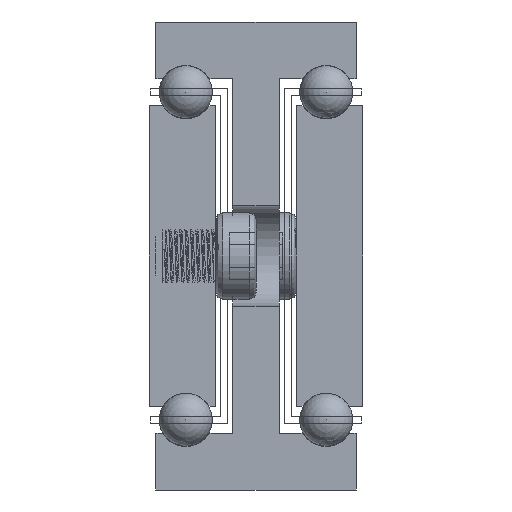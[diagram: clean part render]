
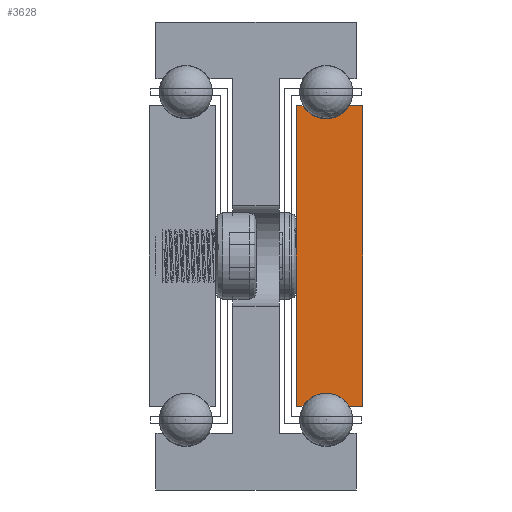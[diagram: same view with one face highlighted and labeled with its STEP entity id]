
A CAD part, front view. The second image highlights one B-rep face of the part: STEP entity #3628.
In plain terms, the highlighted planar face has unit normal (0, -1, 0).
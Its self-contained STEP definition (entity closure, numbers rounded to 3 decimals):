
#468=PLANE('',#3920);
#570=FACE_OUTER_BOUND('',#796,.T.);
#796=EDGE_LOOP('',(#2960,#2961,#2962,#2963,#2964,#2965,#2966,#2967));
#1168=LINE('',#5592,#1380);
#1172=LINE('',#5600,#1384);
#1176=LINE('',#5612,#1388);
#1179=LINE('',#5618,#1391);
#1182=LINE('',#5624,#1394);
#1186=LINE('',#5635,#1398);
#1380=VECTOR('',#4500,1.);
#1384=VECTOR('',#4506,1.);
#1388=VECTOR('',#4518,1.);
#1391=VECTOR('',#4523,1.);
#1394=VECTOR('',#4528,1.);
#1398=VECTOR('',#4540,1.);
#1556=CIRCLE('',#3911,4.);
#1558=CIRCLE('',#3917,4.);
#1852=VERTEX_POINT('',#5590);
#1853=VERTEX_POINT('',#5591);
#1856=VERTEX_POINT('',#5599);
#1858=VERTEX_POINT('',#5605);
#1860=VERTEX_POINT('',#5611);
#1862=VERTEX_POINT('',#5617);
#1864=VERTEX_POINT('',#5623);
#1866=VERTEX_POINT('',#5629);
#2334=EDGE_CURVE('',#1852,#1853,#1168,.T.);
#2338=EDGE_CURVE('',#1853,#1856,#1172,.T.);
#2341=EDGE_CURVE('',#1856,#1858,#1556,.T.);
#2344=EDGE_CURVE('',#1858,#1860,#1176,.T.);
#2347=EDGE_CURVE('',#1860,#1862,#1179,.T.);
#2350=EDGE_CURVE('',#1862,#1864,#1182,.T.);
#2353=EDGE_CURVE('',#1864,#1866,#1558,.T.);
#2356=EDGE_CURVE('',#1866,#1852,#1186,.T.);
#2960=ORIENTED_EDGE('',*,*,#2356,.T.);
#2961=ORIENTED_EDGE('',*,*,#2334,.T.);
#2962=ORIENTED_EDGE('',*,*,#2338,.T.);
#2963=ORIENTED_EDGE('',*,*,#2341,.T.);
#2964=ORIENTED_EDGE('',*,*,#2344,.T.);
#2965=ORIENTED_EDGE('',*,*,#2347,.T.);
#2966=ORIENTED_EDGE('',*,*,#2350,.T.);
#2967=ORIENTED_EDGE('',*,*,#2353,.T.);
#3628=ADVANCED_FACE('',(#570),#468,.F.);
#3911=AXIS2_PLACEMENT_3D('',#5606,#4511,#4512);
#3917=AXIS2_PLACEMENT_3D('',#5630,#4533,#4534);
#3920=AXIS2_PLACEMENT_3D('',#5637,#4542,#4543);
#4500=DIRECTION('',(0.,0.,1.));
#4506=DIRECTION('',(-1.,0.,0.));
#4511=DIRECTION('center_axis',(0.,1.,0.));
#4512=DIRECTION('ref_axis',(0.866,0.,-0.5));
#4518=DIRECTION('',(-1.,0.,0.));
#4523=DIRECTION('',(0.,0.,-1.));
#4528=DIRECTION('',(1.,0.,0.));
#4533=DIRECTION('center_axis',(0.,1.,0.));
#4534=DIRECTION('ref_axis',(-0.866,0.,0.5));
#4540=DIRECTION('',(1.,0.,0.));
#4542=DIRECTION('center_axis',(0.,1.,0.));
#4543=DIRECTION('ref_axis',(-1.,0.,0.));
#5590=CARTESIAN_POINT('',(-8403.086,-390.407,752.5));
#5591=CARTESIAN_POINT('',(-8403.086,-390.407,797.5));
#5592=CARTESIAN_POINT('',(-8403.086,-390.407,752.5));
#5599=CARTESIAN_POINT('',(-8405.121,-390.407,797.5));
#5600=CARTESIAN_POINT('',(-8403.086,-390.407,797.5));
#5605=CARTESIAN_POINT('',(-8412.05,-390.407,797.5));
#5606=CARTESIAN_POINT('Origin',(-8408.586,-390.407,799.5));
#5611=CARTESIAN_POINT('',(-8413.086,-390.407,797.5));
#5612=CARTESIAN_POINT('',(-8412.05,-390.407,797.5));
#5617=CARTESIAN_POINT('',(-8413.086,-390.407,752.5));
#5618=CARTESIAN_POINT('',(-8413.086,-390.407,797.5));
#5623=CARTESIAN_POINT('',(-8412.05,-390.407,752.5));
#5624=CARTESIAN_POINT('',(-8413.086,-390.407,752.5));
#5629=CARTESIAN_POINT('',(-8405.121,-390.407,752.5));
#5630=CARTESIAN_POINT('Origin',(-8408.586,-390.407,750.5));
#5635=CARTESIAN_POINT('',(-8405.121,-390.407,752.5));
#5637=CARTESIAN_POINT('Origin',(-8408.08,-390.407,775.));
